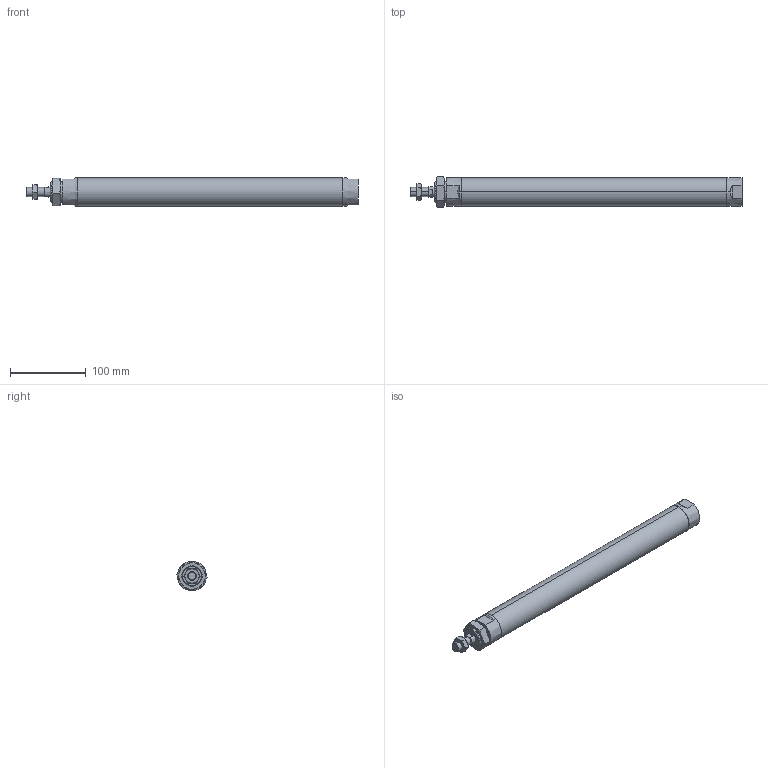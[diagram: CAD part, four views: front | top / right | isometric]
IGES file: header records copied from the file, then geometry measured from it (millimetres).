
Start section: SolidWorks IGES file using analytic representation for surfaces
Global section: file name: C:\Users\Toshiba\Desktop\JGND2-32-300-N.IGS; native system: SolidWorks 2014; preprocessor: SolidWorks 2014; author: Toshiba; date: 160804.110339; units: millimetre
Bounding box: 437 x 40.33 x 38 mm (x, y, z)
Surface area: 56153.2 mm2 (no closed solid volume)
Topology: 0 solids, 0 shells, 89 faces, 1572 edges, 1568 vertices
Faces by surface type: bspline 56, revolution 33
